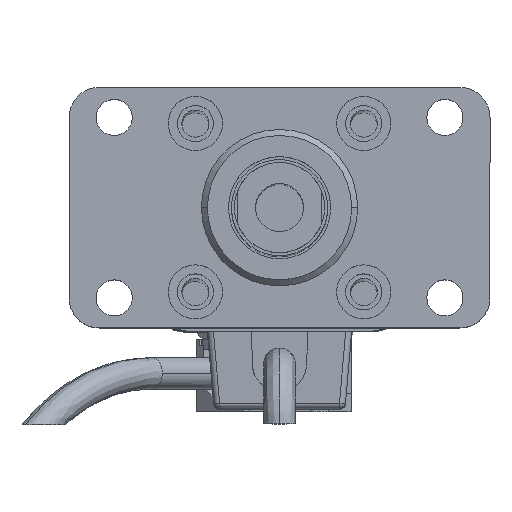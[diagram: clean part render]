
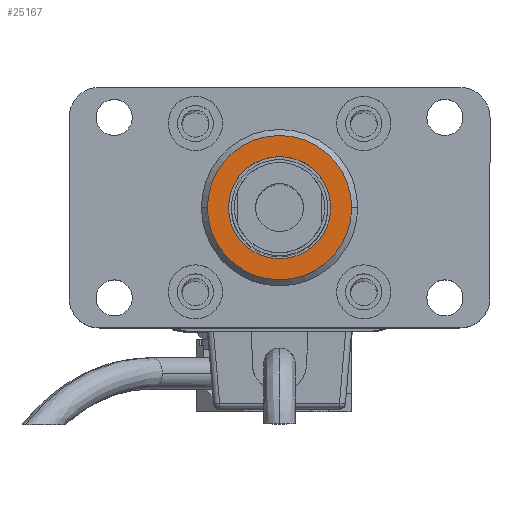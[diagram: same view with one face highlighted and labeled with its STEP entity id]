
A CAD part, top view. The second image highlights one B-rep face of the part: STEP entity #25167.
In plain terms, the highlighted planar face has unit normal (0, 0, 1) as drawn and (0, 0, -1) by its records, which use the part's own axes.
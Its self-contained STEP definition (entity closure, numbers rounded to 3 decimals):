
#1139 = EDGE_CURVE ( 'NONE', #14602, #3172, #1185, .T. ) ;
#1185 = CIRCLE ( 'NONE', #19450, 12. ) ;
#1188 = CIRCLE ( 'NONE', #20469, 8.5 ) ;
#1269 = DIRECTION ( 'NONE',  ( 0., 0., -1. ) ) ;
#2008 = CARTESIAN_POINT ( 'NONE',  ( 0., 0., -3. ) ) ;
#3172 = VERTEX_POINT ( 'NONE', #11835 ) ;
#3355 = DIRECTION ( 'NONE',  ( -1., 0., 0. ) ) ;
#3707 = VERTEX_POINT ( 'NONE', #5747 ) ;
#3894 = DIRECTION ( 'NONE',  ( 0., 0., -1. ) ) ;
#4669 = EDGE_LOOP ( 'NONE', ( #8576, #25953 ) ) ;
#5003 = FACE_BOUND ( 'NONE', #27190, .T. ) ;
#5287 = CARTESIAN_POINT ( 'NONE',  ( 0., 0., -3. ) ) ;
#5747 = CARTESIAN_POINT ( 'NONE',  ( -8.5, 0., -3. ) ) ;
#6524 = DIRECTION ( 'NONE',  ( 0., 0., -1. ) ) ;
#8576 = ORIENTED_EDGE ( 'NONE', *, *, #12723, .T. ) ;
#8703 = AXIS2_PLACEMENT_3D ( 'NONE', #5287, #1269, #3355 ) ;
#8889 = ORIENTED_EDGE ( 'NONE', *, *, #14753, .F. ) ;
#9694 = CARTESIAN_POINT ( 'NONE',  ( 0., 0., -3. ) ) ;
#10129 = AXIS2_PLACEMENT_3D ( 'NONE', #9694, #11907, #14701 ) ;
#10526 = DIRECTION ( 'NONE',  ( -1., 0., 0. ) ) ;
#10655 = PLANE ( 'NONE',  #13354 ) ;
#11469 = CARTESIAN_POINT ( 'NONE',  ( -12., 0., -3. ) ) ;
#11835 = CARTESIAN_POINT ( 'NONE',  ( 12., 0., -3. ) ) ;
#11907 = DIRECTION ( 'NONE',  ( 0., 0., -1. ) ) ;
#12575 = DIRECTION ( 'NONE',  ( -1., 0., 0. ) ) ;
#12723 = EDGE_CURVE ( 'NONE', #3172, #14602, #26316, .T. ) ;
#12877 = DIRECTION ( 'NONE',  ( -1., 0., 0. ) ) ;
#13354 = AXIS2_PLACEMENT_3D ( 'NONE', #2008, #6524, #12877 ) ;
#13632 = CARTESIAN_POINT ( 'NONE',  ( 8.5, 0., -3. ) ) ;
#14602 = VERTEX_POINT ( 'NONE', #11469 ) ;
#14610 = DIRECTION ( 'NONE',  ( 0., 0., -1. ) ) ;
#14701 = DIRECTION ( 'NONE',  ( -1., 0., 0. ) ) ;
#14753 = EDGE_CURVE ( 'NONE', #23353, #3707, #21789, .T. ) ;
#14840 = EDGE_CURVE ( 'NONE', #3707, #23353, #1188, .T. ) ;
#17075 = CARTESIAN_POINT ( 'NONE',  ( 0., 0., -3. ) ) ;
#19450 = AXIS2_PLACEMENT_3D ( 'NONE', #17075, #3894, #10526 ) ;
#20469 = AXIS2_PLACEMENT_3D ( 'NONE', #21329, #14610, #12575 ) ;
#21329 = CARTESIAN_POINT ( 'NONE',  ( 0., 0., -3. ) ) ;
#21789 = CIRCLE ( 'NONE', #8703, 8.5 ) ;
#23353 = VERTEX_POINT ( 'NONE', #13632 ) ;
#24240 = ORIENTED_EDGE ( 'NONE', *, *, #14840, .F. ) ;
#25167 = ADVANCED_FACE ( 'NONE', ( #26263, #5003 ), #10655, .T. ) ;
#25953 = ORIENTED_EDGE ( 'NONE', *, *, #1139, .T. ) ;
#26263 = FACE_OUTER_BOUND ( 'NONE', #4669, .T. ) ;
#26316 = CIRCLE ( 'NONE', #10129, 12. ) ;
#27190 = EDGE_LOOP ( 'NONE', ( #8889, #24240 ) ) ;
